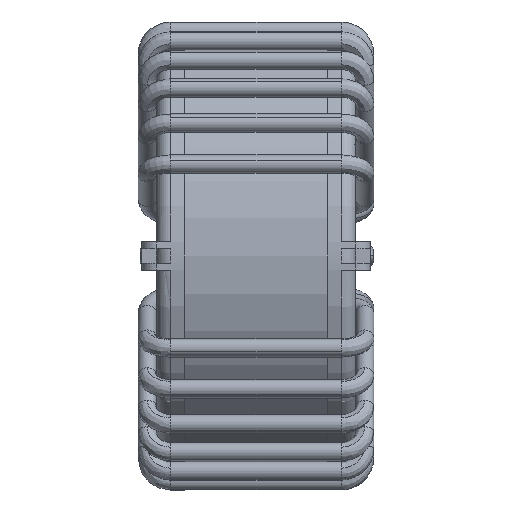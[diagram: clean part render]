
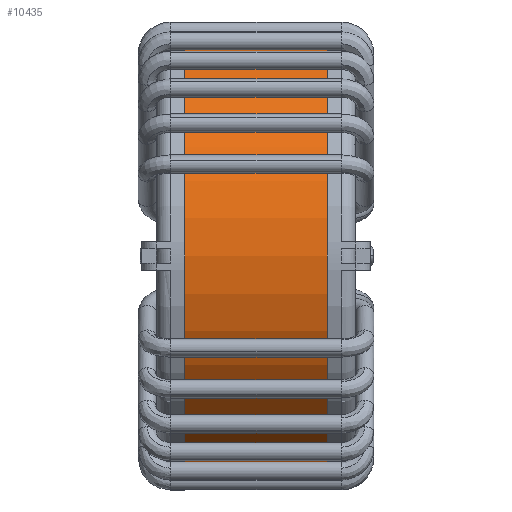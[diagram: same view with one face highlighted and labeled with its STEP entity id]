
A CAD part, left-side view. The second image highlights one B-rep face of the part: STEP entity #10435.
In plain terms, the highlighted cylindrical face has radius 15.3 mm (diameter 30.6 mm), a partial arc.
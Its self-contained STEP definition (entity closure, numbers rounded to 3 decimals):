
#553 = EDGE_CURVE ( 'NONE', #7294, #16496, #14203, .T. ) ;
#845 = DIRECTION ( 'NONE',  ( 0., 1., 0. ) ) ;
#2519 = EDGE_CURVE ( 'NONE', #6162, #7294, #22100, .T. ) ;
#3623 = VERTEX_POINT ( 'NONE', #10448 ) ;
#4335 = FACE_OUTER_BOUND ( 'NONE', #4339, .T. ) ;
#4339 = EDGE_LOOP ( 'NONE', ( #8144, #10576, #7643, #22508 ) ) ;
#6162 = VERTEX_POINT ( 'NONE', #20959 ) ;
#6626 = DIRECTION ( 'NONE',  ( 0., 1., 0. ) ) ;
#6719 = DIRECTION ( 'NONE',  ( 0., -1., 0. ) ) ;
#7294 = VERTEX_POINT ( 'NONE', #14625 ) ;
#7643 = ORIENTED_EDGE ( 'NONE', *, *, #28373, .T. ) ;
#8144 = ORIENTED_EDGE ( 'NONE', *, *, #553, .F. ) ;
#9199 = CARTESIAN_POINT ( 'NONE',  ( 0., 5., 15.3 ) ) ;
#10435 = ADVANCED_FACE ( 'NONE', ( #4335 ), #24694, .T. ) ;
#10448 = CARTESIAN_POINT ( 'NONE',  ( 0., -5., -15.3 ) ) ;
#10576 = ORIENTED_EDGE ( 'NONE', *, *, #2519, .F. ) ;
#11371 = LINE ( 'NONE', #23356, #29168 ) ;
#13942 = DIRECTION ( 'NONE',  ( 0., -1., 0. ) ) ;
#14203 = LINE ( 'NONE', #9199, #16087 ) ;
#14606 = CARTESIAN_POINT ( 'NONE',  ( 0., 5., 0. ) ) ;
#14625 = CARTESIAN_POINT ( 'NONE',  ( 0., 5., 15.3 ) ) ;
#15233 = DIRECTION ( 'NONE',  ( 0., 0., -1. ) ) ;
#15689 = DIRECTION ( 'NONE',  ( 0., 0., 1. ) ) ;
#16087 = VECTOR ( 'NONE', #6719, 1000. ) ;
#16496 = VERTEX_POINT ( 'NONE', #18427 ) ;
#16806 = CIRCLE ( 'NONE', #20037, 15.3 ) ;
#17051 = DIRECTION ( 'NONE',  ( 0., 0., 1. ) ) ;
#18427 = CARTESIAN_POINT ( 'NONE',  ( 0., -5., 15.3 ) ) ;
#20037 = AXIS2_PLACEMENT_3D ( 'NONE', #29109, #845, #15689 ) ;
#20153 = AXIS2_PLACEMENT_3D ( 'NONE', #14606, #6626, #17051 ) ;
#20959 = CARTESIAN_POINT ( 'NONE',  ( 0., 5., -15.3 ) ) ;
#22100 = CIRCLE ( 'NONE', #20153, 15.3 ) ;
#22508 = ORIENTED_EDGE ( 'NONE', *, *, #30543, .T. ) ;
#23356 = CARTESIAN_POINT ( 'NONE',  ( 0., 5., -15.3 ) ) ;
#24694 = CYLINDRICAL_SURFACE ( 'NONE', #25727, 15.3 ) ;
#25727 = AXIS2_PLACEMENT_3D ( 'NONE', #28158, #28642, #15233 ) ;
#28158 = CARTESIAN_POINT ( 'NONE',  ( 0., 5., 0. ) ) ;
#28373 = EDGE_CURVE ( 'NONE', #6162, #3623, #11371, .T. ) ;
#28642 = DIRECTION ( 'NONE',  ( 0., -1., 0. ) ) ;
#29109 = CARTESIAN_POINT ( 'NONE',  ( 0., -5., 0. ) ) ;
#29168 = VECTOR ( 'NONE', #13942, 1000. ) ;
#30543 = EDGE_CURVE ( 'NONE', #3623, #16496, #16806, .T. ) ;
